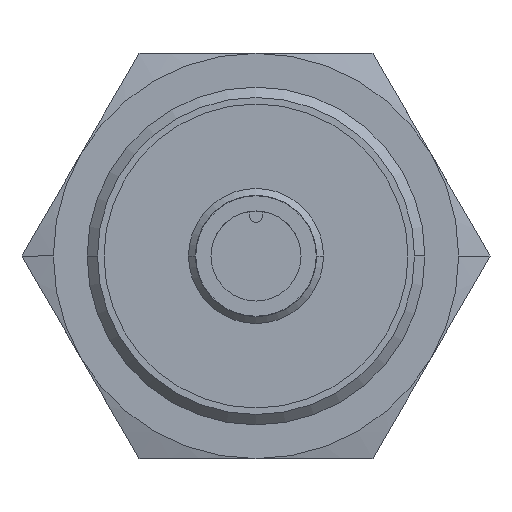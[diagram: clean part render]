
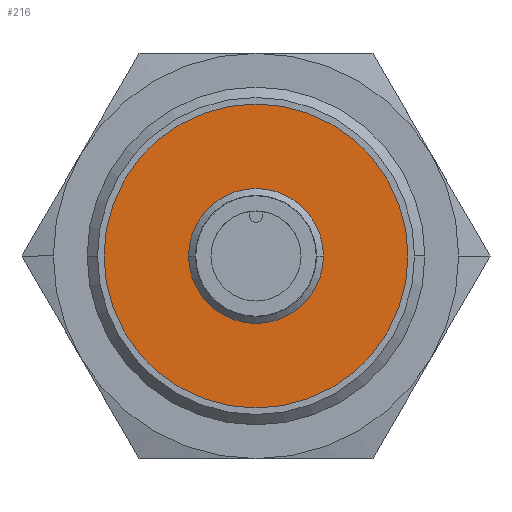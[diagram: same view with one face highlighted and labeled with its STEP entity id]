
A CAD part, left-side view. The second image highlights one B-rep face of the part: STEP entity #216.
In plain terms, the highlighted planar face has unit normal (-1, 0, 0).
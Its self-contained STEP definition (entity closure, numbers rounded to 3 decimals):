
#216 = ADVANCED_FACE( '', ( #375, #376 ), #377, .T. );
#375 = FACE_BOUND( '', #599, .T. );
#376 = FACE_OUTER_BOUND( '', #600, .T. );
#377 = PLANE( '', #601 );
#599 = EDGE_LOOP( '', ( #1057, #1058 ) );
#600 = EDGE_LOOP( '', ( #1059, #1060 ) );
#601 = AXIS2_PLACEMENT_3D( '', #1061, #1062, #1063 );
#1057 = ORIENTED_EDGE( '', *, *, #1585, .T. );
#1058 = ORIENTED_EDGE( '', *, *, #1533, .T. );
#1059 = ORIENTED_EDGE( '', *, *, #1503, .T. );
#1060 = ORIENTED_EDGE( '', *, *, #1599, .T. );
#1061 = CARTESIAN_POINT( '', ( 13., 6.75, 0. ) );
#1062 = DIRECTION( '', ( -1., 0., 0. ) );
#1063 = DIRECTION( '', ( 0., 1., 0. ) );
#1503 = EDGE_CURVE( '', #1729, #1733, #1735, .T. );
#1533 = EDGE_CURVE( '', #1791, #1788, #1792, .T. );
#1585 = EDGE_CURVE( '', #1788, #1791, #1877, .T. );
#1599 = EDGE_CURVE( '', #1733, #1729, #1891, .T. );
#1729 = VERTEX_POINT( '', #2093 );
#1733 = VERTEX_POINT( '', #2098 );
#1735 = CIRCLE( '', #2101, 13.5 );
#1788 = VERTEX_POINT( '', #2170 );
#1791 = VERTEX_POINT( '', #2174 );
#1792 = CIRCLE( '', #2175, 5.35 );
#1877 = CIRCLE( '', #2485, 5.35 );
#1891 = CIRCLE( '', #2499, 13.5 );
#2093 = CARTESIAN_POINT( '', ( 13., 13.5, 0. ) );
#2098 = CARTESIAN_POINT( '', ( 13., -13.5, 0. ) );
#2101 = AXIS2_PLACEMENT_3D( '', #3169, #3170, #3171 );
#2170 = CARTESIAN_POINT( '', ( 13., 5.35, 0. ) );
#2174 = CARTESIAN_POINT( '', ( 13., -5.35, 0. ) );
#2175 = AXIS2_PLACEMENT_3D( '', #3225, #3226, #3227 );
#2485 = AXIS2_PLACEMENT_3D( '', #3303, #3304, #3305 );
#2499 = AXIS2_PLACEMENT_3D( '', #3345, #3346, #3347 );
#3169 = CARTESIAN_POINT( '', ( 13., 0., 0. ) );
#3170 = DIRECTION( '', ( -1., 0., 0. ) );
#3171 = DIRECTION( '', ( 0., 1., 0. ) );
#3225 = CARTESIAN_POINT( '', ( 13., 0., 0. ) );
#3226 = DIRECTION( '', ( 1., 0., 0. ) );
#3227 = DIRECTION( '', ( 0., 1., 0. ) );
#3303 = CARTESIAN_POINT( '', ( 13., 0., 0. ) );
#3304 = DIRECTION( '', ( 1., 0., 0. ) );
#3305 = DIRECTION( '', ( 0., 1., 0. ) );
#3345 = CARTESIAN_POINT( '', ( 13., 0., 0. ) );
#3346 = DIRECTION( '', ( -1., 0., 0. ) );
#3347 = DIRECTION( '', ( 0., 1., 0. ) );
